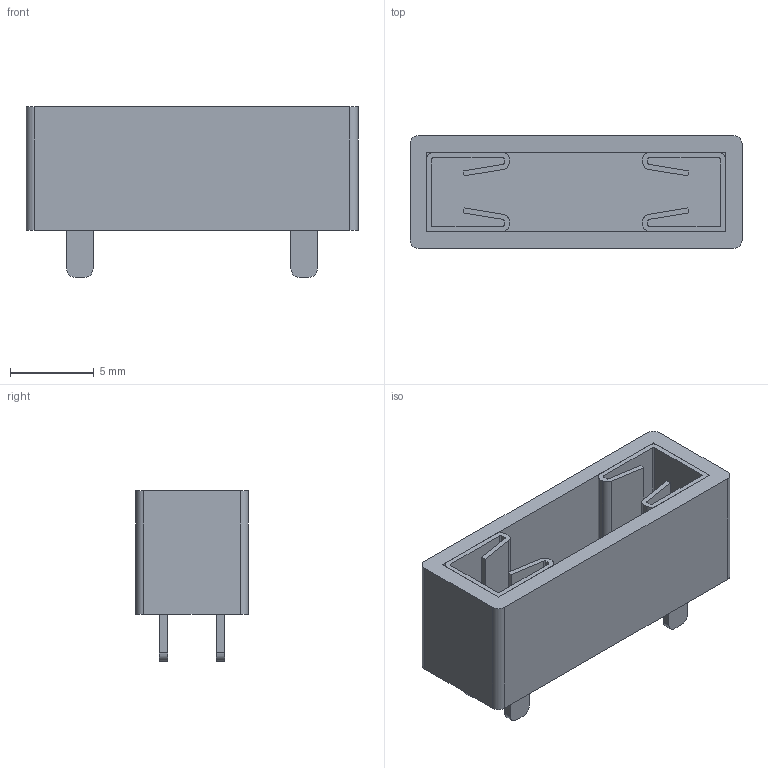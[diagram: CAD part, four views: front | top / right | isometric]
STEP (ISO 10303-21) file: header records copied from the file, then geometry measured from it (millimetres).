
FILE_DESCRIPTION(/* description */ (''),/* implementation_level */ '2;1');
FILE_NAME(/* name */ 'C:/Users/User/Desktop/3557-2.step',/* time_stamp */ '2021-04-21T20:48:20+09:00',/* author */ (''),/* organization */ (''),/* preprocessor_version */ 'ST-DEVELOPER v18.1',/* originating_system */ 'Autodesk Translation Framework v9.10.0.1330',/* authorisation */ '');
FILE_SCHEMA (('AUTOMOTIVE_DESIGN { 1 0 10303 214 3 1 1 }'));
Length unit declared in the file: metre
Products named in the file (5): 3557-2; 3557-2_1; Open CASCADE STEP translator 6.8 1; Open CASCADE STEP translator 6.8 1 (1); Open CASCADE STEP translator 6.8 1 (2)
Assembly tree (4 placements, depth 3):
  3557-2
    3557-2_1
      Open CASCADE STEP translator 6.8 1
      Open CASCADE STEP translator 6.8 1 (1)
      Open CASCADE STEP translator 6.8 1 (2)
Bounding box: 19.81 x 6.73 x 10.16 mm (x, y, z)
Volume: 535.6 mm3; surface area: 1567.7 mm2
Topology: 3 solids, 3 shells, 99 faces, 264 edges, 176 vertices
Faces by surface type: plane 67, cylinder 32
Entity records: 3286 total; most frequent: CARTESIAN_POINT 549, DIRECTION 546, ORIENTED_EDGE 528, EDGE_CURVE 264, LINE 200, VECTOR 200, VERTEX_POINT 176, AXIS2_PLACEMENT_3D 173
